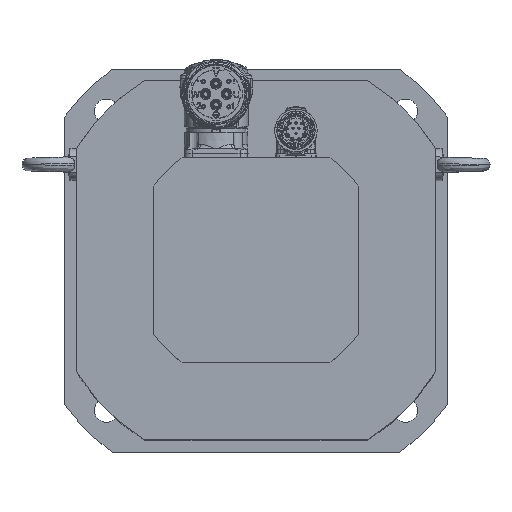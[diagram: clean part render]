
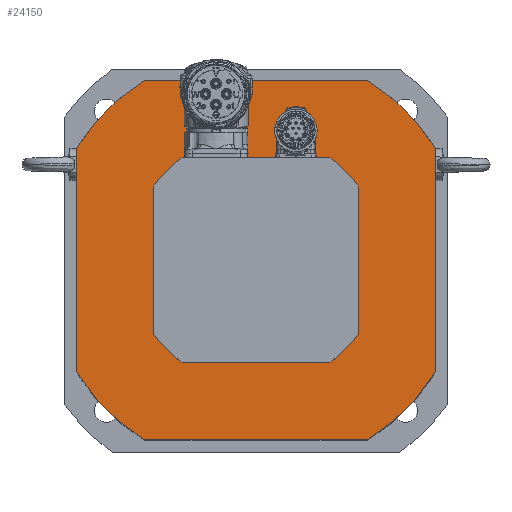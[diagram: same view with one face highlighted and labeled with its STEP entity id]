
A CAD part, top view. The second image highlights one B-rep face of the part: STEP entity #24150.
In plain terms, the highlighted planar face has unit normal (0, 0, 1).
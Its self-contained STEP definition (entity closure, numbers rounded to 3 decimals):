
#2865=FACE_BOUND('',#5229,.T.);
#3010=PLANE('',#25839);
#3815=FACE_OUTER_BOUND('',#5228,.T.);
#5228=EDGE_LOOP('',(#17017,#17018,#17019,#17020,#17021,#17022,#17023,#17024));
#5229=EDGE_LOOP('',(#17025,#17026,#17027,#17028,#17029,#17030,#17031,#17032,
#17033,#17034,#17035,#17036,#17037,#17038,#17039,#17040,#17041,#17042,#17043,
#17044,#17045,#17046,#17047,#17048));
#6729=LINE('',#35160,#8001);
#6739=LINE('',#35184,#8011);
#6746=LINE('',#35197,#8018);
#6755=LINE('',#35224,#8027);
#6756=LINE('',#35228,#8028);
#6757=LINE('',#35232,#8029);
#6758=LINE('',#35234,#8030);
#6759=LINE('',#35236,#8031);
#6760=LINE('',#35238,#8032);
#6761=LINE('',#35240,#8033);
#6762=LINE('',#35242,#8034);
#6763=LINE('',#35244,#8035);
#6764=LINE('',#35246,#8036);
#6765=LINE('',#35248,#8037);
#6766=LINE('',#35252,#8038);
#6767=LINE('',#35256,#8039);
#6768=LINE('',#35258,#8040);
#6769=LINE('',#35260,#8041);
#6770=LINE('',#35262,#8042);
#6771=LINE('',#35264,#8043);
#6772=LINE('',#35266,#8044);
#6773=LINE('',#35268,#8045);
#6774=LINE('',#35270,#8046);
#6775=LINE('',#35272,#8047);
#8001=VECTOR('',#28641,10.);
#8011=VECTOR('',#28663,10.);
#8018=VECTOR('',#28674,10.);
#8027=VECTOR('',#28711,10.);
#8028=VECTOR('',#28714,10.);
#8029=VECTOR('',#28717,10.);
#8030=VECTOR('',#28718,10.);
#8031=VECTOR('',#28719,10.);
#8032=VECTOR('',#28720,10.);
#8033=VECTOR('',#28721,10.);
#8034=VECTOR('',#28722,10.);
#8035=VECTOR('',#28723,10.);
#8036=VECTOR('',#28724,10.);
#8037=VECTOR('',#28725,10.);
#8038=VECTOR('',#28728,10.);
#8039=VECTOR('',#28731,10.);
#8040=VECTOR('',#28732,10.);
#8041=VECTOR('',#28733,10.);
#8042=VECTOR('',#28734,10.);
#8043=VECTOR('',#28735,10.);
#8044=VECTOR('',#28736,10.);
#8045=VECTOR('',#28737,10.);
#8046=VECTOR('',#28738,10.);
#8047=VECTOR('',#28739,10.);
#9293=CIRCLE('',#25813,132.5);
#9295=CIRCLE('',#25820,132.5);
#9299=CIRCLE('',#25835,132.5);
#9300=CIRCLE('',#25837,132.5);
#9301=CIRCLE('',#25840,79.);
#9302=CIRCLE('',#25841,79.);
#9303=CIRCLE('',#25842,79.);
#9304=CIRCLE('',#25843,79.);
#10703=VERTEX_POINT('',#35144);
#10704=VERTEX_POINT('',#35146);
#10708=VERTEX_POINT('',#35158);
#10712=VERTEX_POINT('',#35172);
#10713=VERTEX_POINT('',#35174);
#10716=VERTEX_POINT('',#35183);
#10720=VERTEX_POINT('',#35195);
#10724=VERTEX_POINT('',#35220);
#10725=VERTEX_POINT('',#35226);
#10726=VERTEX_POINT('',#35227);
#10727=VERTEX_POINT('',#35229);
#10728=VERTEX_POINT('',#35231);
#10729=VERTEX_POINT('',#35233);
#10730=VERTEX_POINT('',#35235);
#10731=VERTEX_POINT('',#35237);
#10732=VERTEX_POINT('',#35239);
#10733=VERTEX_POINT('',#35241);
#10734=VERTEX_POINT('',#35243);
#10735=VERTEX_POINT('',#35245);
#10736=VERTEX_POINT('',#35247);
#10737=VERTEX_POINT('',#35249);
#10738=VERTEX_POINT('',#35251);
#10739=VERTEX_POINT('',#35253);
#10740=VERTEX_POINT('',#35255);
#10741=VERTEX_POINT('',#35257);
#10742=VERTEX_POINT('',#35259);
#10743=VERTEX_POINT('',#35261);
#10744=VERTEX_POINT('',#35263);
#10745=VERTEX_POINT('',#35265);
#10746=VERTEX_POINT('',#35267);
#10747=VERTEX_POINT('',#35269);
#10748=VERTEX_POINT('',#35271);
#13128=EDGE_CURVE('',#10704,#10703,#9293,.T.);
#13135=EDGE_CURVE('',#10703,#10708,#6729,.T.);
#13142=EDGE_CURVE('',#10713,#10712,#9295,.T.);
#13147=EDGE_CURVE('',#10716,#10713,#6739,.T.);
#13154=EDGE_CURVE('',#10712,#10720,#6746,.T.);
#13164=EDGE_CURVE('',#10708,#10716,#9299,.T.);
#13166=EDGE_CURVE('',#10720,#10724,#9300,.T.);
#13167=EDGE_CURVE('',#10724,#10704,#6755,.T.);
#13168=EDGE_CURVE('',#10725,#10726,#6756,.T.);
#13169=EDGE_CURVE('',#10726,#10727,#9301,.T.);
#13170=EDGE_CURVE('',#10727,#10728,#6757,.T.);
#13171=EDGE_CURVE('',#10728,#10729,#6758,.T.);
#13172=EDGE_CURVE('',#10729,#10730,#6759,.T.);
#13173=EDGE_CURVE('',#10730,#10731,#6760,.T.);
#13174=EDGE_CURVE('',#10731,#10732,#6761,.T.);
#13175=EDGE_CURVE('',#10732,#10733,#6762,.T.);
#13176=EDGE_CURVE('',#10733,#10734,#6763,.T.);
#13177=EDGE_CURVE('',#10734,#10735,#6764,.T.);
#13178=EDGE_CURVE('',#10735,#10736,#6765,.T.);
#13179=EDGE_CURVE('',#10736,#10737,#9302,.T.);
#13180=EDGE_CURVE('',#10737,#10738,#6766,.T.);
#13181=EDGE_CURVE('',#10738,#10739,#9303,.T.);
#13182=EDGE_CURVE('',#10739,#10740,#6767,.T.);
#13183=EDGE_CURVE('',#10740,#10741,#6768,.T.);
#13184=EDGE_CURVE('',#10741,#10742,#6769,.T.);
#13185=EDGE_CURVE('',#10742,#10743,#6770,.T.);
#13186=EDGE_CURVE('',#10743,#10744,#6771,.T.);
#13187=EDGE_CURVE('',#10744,#10745,#6772,.T.);
#13188=EDGE_CURVE('',#10745,#10746,#6773,.T.);
#13189=EDGE_CURVE('',#10746,#10747,#6774,.T.);
#13190=EDGE_CURVE('',#10747,#10748,#6775,.T.);
#13191=EDGE_CURVE('',#10748,#10725,#9304,.T.);
#17017=ORIENTED_EDGE('',*,*,#13135,.T.);
#17018=ORIENTED_EDGE('',*,*,#13164,.T.);
#17019=ORIENTED_EDGE('',*,*,#13147,.T.);
#17020=ORIENTED_EDGE('',*,*,#13142,.T.);
#17021=ORIENTED_EDGE('',*,*,#13154,.T.);
#17022=ORIENTED_EDGE('',*,*,#13166,.T.);
#17023=ORIENTED_EDGE('',*,*,#13167,.T.);
#17024=ORIENTED_EDGE('',*,*,#13128,.T.);
#17025=ORIENTED_EDGE('',*,*,#13168,.T.);
#17026=ORIENTED_EDGE('',*,*,#13169,.T.);
#17027=ORIENTED_EDGE('',*,*,#13170,.T.);
#17028=ORIENTED_EDGE('',*,*,#13171,.T.);
#17029=ORIENTED_EDGE('',*,*,#13172,.T.);
#17030=ORIENTED_EDGE('',*,*,#13173,.T.);
#17031=ORIENTED_EDGE('',*,*,#13174,.T.);
#17032=ORIENTED_EDGE('',*,*,#13175,.T.);
#17033=ORIENTED_EDGE('',*,*,#13176,.T.);
#17034=ORIENTED_EDGE('',*,*,#13177,.T.);
#17035=ORIENTED_EDGE('',*,*,#13178,.T.);
#17036=ORIENTED_EDGE('',*,*,#13179,.T.);
#17037=ORIENTED_EDGE('',*,*,#13180,.T.);
#17038=ORIENTED_EDGE('',*,*,#13181,.T.);
#17039=ORIENTED_EDGE('',*,*,#13182,.T.);
#17040=ORIENTED_EDGE('',*,*,#13183,.T.);
#17041=ORIENTED_EDGE('',*,*,#13184,.T.);
#17042=ORIENTED_EDGE('',*,*,#13185,.T.);
#17043=ORIENTED_EDGE('',*,*,#13186,.T.);
#17044=ORIENTED_EDGE('',*,*,#13187,.T.);
#17045=ORIENTED_EDGE('',*,*,#13188,.T.);
#17046=ORIENTED_EDGE('',*,*,#13189,.T.);
#17047=ORIENTED_EDGE('',*,*,#13190,.T.);
#17048=ORIENTED_EDGE('',*,*,#13191,.T.);
#24150=ADVANCED_FACE('',(#3815,#2865),#3010,.T.);
#25813=AXIS2_PLACEMENT_3D('',#35147,#28628,#28629);
#25820=AXIS2_PLACEMENT_3D('',#35175,#28654,#28655);
#25835=AXIS2_PLACEMENT_3D('',#35218,#28702,#28703);
#25837=AXIS2_PLACEMENT_3D('',#35222,#28707,#28708);
#25839=AXIS2_PLACEMENT_3D('',#35225,#28712,#28713);
#25840=AXIS2_PLACEMENT_3D('',#35230,#28715,#28716);
#25841=AXIS2_PLACEMENT_3D('',#35250,#28726,#28727);
#25842=AXIS2_PLACEMENT_3D('',#35254,#28729,#28730);
#25843=AXIS2_PLACEMENT_3D('',#35273,#28740,#28741);
#28628=DIRECTION('center_axis',(0.,0.,1.));
#28629=DIRECTION('ref_axis',(1.,0.,0.));
#28641=DIRECTION('',(-1.,0.,0.));
#28654=DIRECTION('center_axis',(0.,0.,1.));
#28655=DIRECTION('ref_axis',(1.,0.,0.));
#28663=DIRECTION('',(0.,-1.,0.));
#28674=DIRECTION('',(1.,0.,0.));
#28702=DIRECTION('center_axis',(0.,0.,1.));
#28703=DIRECTION('ref_axis',(1.,0.,0.));
#28707=DIRECTION('center_axis',(0.,0.,1.));
#28708=DIRECTION('ref_axis',(1.,0.,0.));
#28711=DIRECTION('',(0.,1.,0.));
#28712=DIRECTION('center_axis',(0.,0.,1.));
#28713=DIRECTION('ref_axis',(1.,0.,0.));
#28714=DIRECTION('',(-1.,0.,0.));
#28715=DIRECTION('center_axis',(0.,0.,-1.));
#28716=DIRECTION('ref_axis',(-1.,0.,0.));
#28717=DIRECTION('',(0.,1.,0.));
#28718=DIRECTION('',(1.,0.,0.));
#28719=DIRECTION('',(0.,1.,0.));
#28720=DIRECTION('',(-1.,0.,0.));
#28721=DIRECTION('',(0.,1.,0.));
#28722=DIRECTION('',(1.,0.,0.));
#28723=DIRECTION('',(0.,1.,0.));
#28724=DIRECTION('',(-1.,0.,0.));
#28725=DIRECTION('',(0.,1.,0.));
#28726=DIRECTION('center_axis',(0.,0.,-1.));
#28727=DIRECTION('ref_axis',(-1.,0.,0.));
#28728=DIRECTION('',(1.,0.,0.));
#28729=DIRECTION('center_axis',(0.,0.,-1.));
#28730=DIRECTION('ref_axis',(-1.,0.,0.));
#28731=DIRECTION('',(0.,-1.,0.));
#28732=DIRECTION('',(-1.,0.,0.));
#28733=DIRECTION('',(0.,-1.,0.));
#28734=DIRECTION('',(1.,0.,0.));
#28735=DIRECTION('',(0.,-1.,0.));
#28736=DIRECTION('',(-1.,0.,0.));
#28737=DIRECTION('',(0.,-1.,0.));
#28738=DIRECTION('',(1.,0.,0.));
#28739=DIRECTION('',(0.,-1.,0.));
#28740=DIRECTION('center_axis',(0.,0.,-1.));
#28741=DIRECTION('ref_axis',(-1.,0.,0.));
#35144=CARTESIAN_POINT('',(70.,112.5,0.));
#35146=CARTESIAN_POINT('',(112.5,70.,0.));
#35147=CARTESIAN_POINT('Origin',(0.,0.,0.));
#35158=CARTESIAN_POINT('',(-70.,112.5,0.));
#35160=CARTESIAN_POINT('',(-56.25,112.5,0.));
#35172=CARTESIAN_POINT('',(-70.,-112.5,0.));
#35174=CARTESIAN_POINT('',(-112.5,-70.,0.));
#35175=CARTESIAN_POINT('Origin',(0.,0.,0.));
#35183=CARTESIAN_POINT('',(-112.5,70.,0.));
#35184=CARTESIAN_POINT('',(-112.5,-56.25,0.));
#35195=CARTESIAN_POINT('',(70.,-112.5,0.));
#35197=CARTESIAN_POINT('',(56.25,-112.5,0.));
#35218=CARTESIAN_POINT('Origin',(0.,0.,0.));
#35220=CARTESIAN_POINT('',(112.5,-70.,0.));
#35222=CARTESIAN_POINT('Origin',(0.,0.,0.));
#35224=CARTESIAN_POINT('',(112.5,56.25,0.));
#35225=CARTESIAN_POINT('Origin',(0.,0.,0.));
#35226=CARTESIAN_POINT('',(46.314,-64.,0.));
#35227=CARTESIAN_POINT('',(-46.314,-64.,0.));
#35228=CARTESIAN_POINT('',(-32.,-64.,0.));
#35229=CARTESIAN_POINT('',(-64.,-46.314,0.));
#35230=CARTESIAN_POINT('Origin',(0.,0.,0.));
#35231=CARTESIAN_POINT('',(-64.,-30.5,0.));
#35232=CARTESIAN_POINT('',(-64.,32.,0.));
#35233=CARTESIAN_POINT('',(-62.5,-30.5,0.));
#35234=CARTESIAN_POINT('',(-31.25,-30.5,0.));
#35235=CARTESIAN_POINT('',(-62.5,-22.5,0.));
#35236=CARTESIAN_POINT('',(-62.5,-11.25,0.));
#35237=CARTESIAN_POINT('',(-64.,-22.5,0.));
#35238=CARTESIAN_POINT('',(-32.,-22.5,0.));
#35239=CARTESIAN_POINT('',(-64.,22.5,0.));
#35240=CARTESIAN_POINT('',(-64.,32.,0.));
#35241=CARTESIAN_POINT('',(-62.5,22.5,0.));
#35242=CARTESIAN_POINT('',(-31.25,22.5,0.));
#35243=CARTESIAN_POINT('',(-62.5,30.5,0.));
#35244=CARTESIAN_POINT('',(-62.5,15.25,0.));
#35245=CARTESIAN_POINT('',(-64.,30.5,0.));
#35246=CARTESIAN_POINT('',(-32.,30.5,0.));
#35247=CARTESIAN_POINT('',(-64.,46.314,0.));
#35248=CARTESIAN_POINT('',(-64.,32.,0.));
#35249=CARTESIAN_POINT('',(-46.314,64.,0.));
#35250=CARTESIAN_POINT('Origin',(0.,0.,0.));
#35251=CARTESIAN_POINT('',(46.314,64.,0.));
#35252=CARTESIAN_POINT('',(32.,64.,0.));
#35253=CARTESIAN_POINT('',(64.,46.314,0.));
#35254=CARTESIAN_POINT('Origin',(0.,0.,0.));
#35255=CARTESIAN_POINT('',(64.,30.5,0.));
#35256=CARTESIAN_POINT('',(64.,-32.,0.));
#35257=CARTESIAN_POINT('',(62.5,30.5,0.));
#35258=CARTESIAN_POINT('',(31.25,30.5,0.));
#35259=CARTESIAN_POINT('',(62.5,22.5,0.));
#35260=CARTESIAN_POINT('',(62.5,11.25,0.));
#35261=CARTESIAN_POINT('',(64.,22.5,0.));
#35262=CARTESIAN_POINT('',(32.,22.5,0.));
#35263=CARTESIAN_POINT('',(64.,-22.5,0.));
#35264=CARTESIAN_POINT('',(64.,-32.,0.));
#35265=CARTESIAN_POINT('',(62.5,-22.5,0.));
#35266=CARTESIAN_POINT('',(31.25,-22.5,0.));
#35267=CARTESIAN_POINT('',(62.5,-30.5,0.));
#35268=CARTESIAN_POINT('',(62.5,-15.25,0.));
#35269=CARTESIAN_POINT('',(64.,-30.5,0.));
#35270=CARTESIAN_POINT('',(32.,-30.5,0.));
#35271=CARTESIAN_POINT('',(64.,-46.314,0.));
#35272=CARTESIAN_POINT('',(64.,-32.,0.));
#35273=CARTESIAN_POINT('Origin',(0.,0.,0.));
